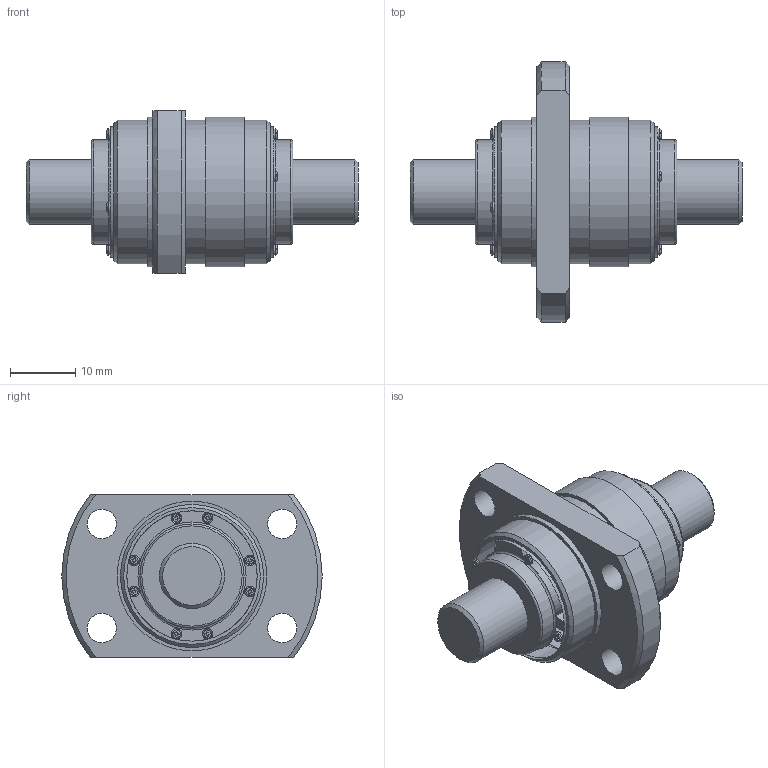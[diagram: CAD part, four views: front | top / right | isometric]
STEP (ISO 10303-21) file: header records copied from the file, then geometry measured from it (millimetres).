
FILE_DESCRIPTION(/* description */ ('STEP AP203'),/* implementation_level */ '2;1');
FILE_NAME(/* name */ 'BLK1010-3.2ZZ+51LC7T_000',/* time_stamp */ '2025-06-11T06:23:54+02:00',/* author */ ('License CC BY-ND 4.0'),/* organization */ ('CADENAS'),/* preprocessor_version */ 'ST-DEVELOPER v19.3',/* originating_system */ 'PARTsolutions',/* authorisation */ ' ');
FILE_SCHEMA (('CONFIG_CONTROL_DESIGN'));
Length unit declared in the file: millimetre
Products named in the file (3): BLK1010-3.2ZZ+51LC7T_000; BLK1010-3.20ZZ0 Shaft; BLK1010-3.2ZZ Nut
Assembly tree (2 placements, depth 2):
  BLK1010-3.2ZZ+51LC7T_000
    BLK1010-3.20ZZ0 Shaft
    BLK1010-3.2ZZ Nut
Bounding box: 51 x 40 x 25 mm (x, y, z)
Volume: 14861.7 mm3; surface area: 6844.5 mm2
Topology: 2 solids, 2 shells, 228 faces, 621 edges, 406 vertices
Faces by surface type: plane 151, cylinder 57, torus 12, cone 8
Full cylindrical faces by diameter (mm): 1.6 x8, 4.5 x4, 10 x2, 16 x2, 20 x2, 22 x3, 23 x2
Entity records: 7019 total; most frequent: CARTESIAN_POINT 1495, ORIENTED_EDGE 1128, DIRECTION 1086, EDGE_CURVE 564, AXIS2_PLACEMENT_3D 395, VERTEX_POINT 388, LINE 296, VECTOR 296
